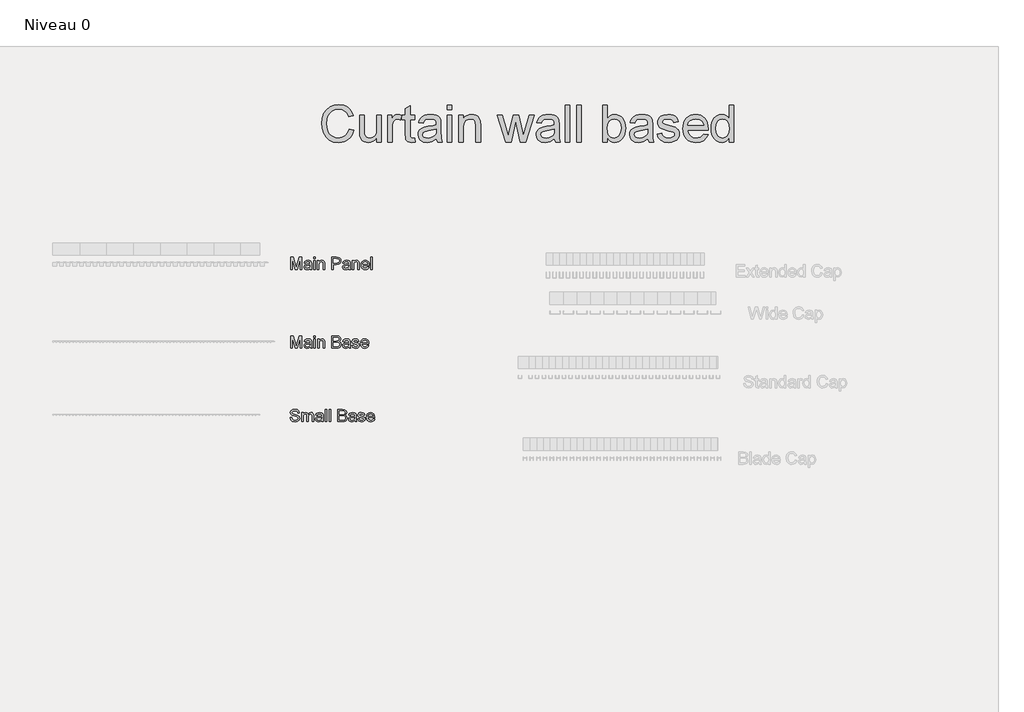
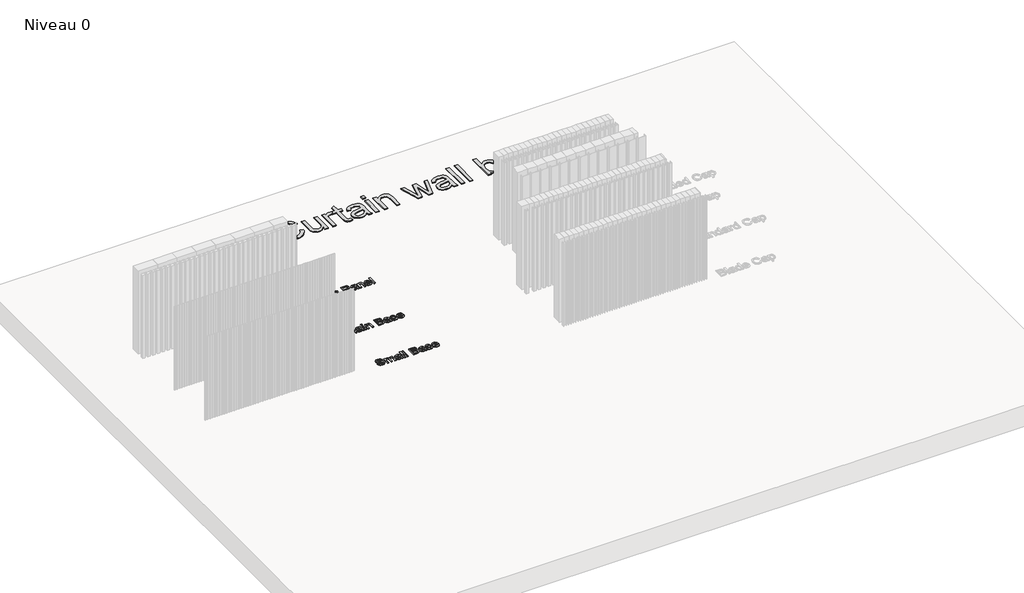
# One storey, part 3 of 25: 4 proxies.
"""IFC4 building model written with IfcOpenShell, lengths in millimetres."""

import ifcopenshell
import ifcopenshell.guid

model = None  # the IFC model being written
_history = None  # IfcOwnerHistory: only IFC2X3 demands one
_inside = {}  # id of a spatial element -> (the spatial element, [elements in it])
_under = {}  # id of a project, library or spatial element -> (it, [spatial elements below it])
_declared = {}  # id of a project -> (the project, [libraries it declares])
_typed = {}  # id of a type object -> (the type object, [elements of that type])
_made_of = {}  # id of a material, layer set ... -> (it, [elements and type objects made of it])


def new_model(schema):
    """Start an empty IFC model of exactly this schema.

    Asked for "IFC4X3", IfcOpenShell would pick the latest addendum, in which some entities
    have other attributes; the version numbers below select the first issue.
    IFC2X3 requires an IfcOwnerHistory on every rooted entity: one is made here for all.
    """
    global model, _history
    if schema == "IFC4X3":
        model = ifcopenshell.file(schema_version=(4, 3, 0, 0))
    else:
        model = ifcopenshell.file(schema=schema)
    _inside.clear()
    _under.clear()
    _declared.clear()
    _typed.clear()
    _made_of.clear()
    _history = None
    if model.schema == "IFC2X3":
        org = make("IfcOrganization", Name="unknown")
        user = make(
            "IfcPersonAndOrganization",
            ThePerson=make("IfcPerson", FamilyName="unknown"),
            TheOrganization=org,
        )
        app = make(
            "IfcApplication",
            ApplicationDeveloper=org,
            Version="unknown",
            ApplicationFullName="unknown",
            ApplicationIdentifier="unknown",
        )
        _history = make(
            "IfcOwnerHistory",
            OwningUser=user,
            OwningApplication=app,
            ChangeAction="ADDED",
            CreationDate=0,
        )
    return model


def make(cls, **values):
    """One entity of the class cls with the attributes given. An attribute that is None is left unset."""
    return model.create_entity(
        cls, **{name: value for name, value in values.items() if value is not None}
    )


def rooted(cls, **values):
    """An entity with a GlobalId (a new one), such as an element, a storey or a relation."""
    return make(cls, GlobalId=ifcopenshell.guid.new(), OwnerHistory=_history, **values)


def si_unit(unit_type, name, prefix=None):
    """IfcSIUnit, for example si_unit("LENGTHUNIT", "METRE", prefix="MILLI")."""
    return make("IfcSIUnit", UnitType=unit_type, Prefix=prefix, Name=name)


def assignment(units):
    """IfcUnitAssignment: the units of a project."""
    return None if units is None else make("IfcUnitAssignment", Units=units)


def point(xyz):
    """IfcCartesianPoint."""
    return None if xyz is None else make("IfcCartesianPoint", Coordinates=xyz)


def direction(xyz):
    """IfcDirection."""
    return None if xyz is None else make("IfcDirection", DirectionRatios=xyz)


def frame(location, z_axis=None, x_axis=None):
    """IfcAxis2Placement3D, a coordinate frame: its origin and axes. An axis left out is left unset."""
    return make(
        "IfcAxis2Placement3D",
        Location=point(location),
        Axis=direction(z_axis),
        RefDirection=direction(x_axis),
    )


def origin():
    """The frame at (0, 0, 0) with its axes left unset."""
    return frame((0.0, 0.0, 0.0))


def origin_with_axes():
    """The frame at (0, 0, 0) with the z axis (0, 0, 1) and the x axis (1, 0, 0) written out."""
    return frame((0.0, 0.0, 0.0), z_axis=(0.0, 0.0, 1.0), x_axis=(1.0, 0.0, 0.0))


def place(relative_to, where):
    """IfcLocalPlacement: puts the frame where relative to a parent placement (None: the world)."""
    return make(
        "IfcLocalPlacement", PlacementRelTo=relative_to, RelativePlacement=where
    )


def context(
    kind, dimensions, precision=None, world=None, true_north=None, identifier=None
):
    """IfcGeometricRepresentationContext, for example the 3D "Model" context."""
    return make(
        "IfcGeometricRepresentationContext",
        ContextIdentifier=identifier,
        ContextType=kind,
        CoordinateSpaceDimension=dimensions,
        Precision=precision,
        WorldCoordinateSystem=world,
        TrueNorth=true_north,
    )


def project(units=None, contexts=None):
    """IfcProject with its units and contexts."""
    return rooted(
        "IfcProject",
        Name="project",
        RepresentationContexts=contexts,
        UnitsInContext=assignment(units),
    )


def spatial(cls, under=None, at=None, **own):
    """A site, building, storey or space (cls), placed at a placement, below another one or the project."""
    s = rooted(cls, ObjectPlacement=at, **own)
    if under is not None:
        _under.setdefault(under.id(), (under, []))[1].append(s)
    return s


def polyline(points):
    """IfcPolyline through the points."""
    return make("IfcPolyline", Points=[point(p) for p in points])


def outline(outer, holes=None, kind="AREA"):
    """IfcArbitraryClosedProfileDef: a profile drawn as a closed curve; with holes, ...WithVoids."""
    if holes is None:
        return make("IfcArbitraryClosedProfileDef", ProfileType=kind, OuterCurve=outer)
    return make(
        "IfcArbitraryProfileDefWithVoids",
        ProfileType=kind,
        OuterCurve=outer,
        InnerCurves=holes,
    )


def extrude(swept, where, along, depth):
    """IfcExtrudedAreaSolid: the profile swept, set in the frame where, extruded along a direction by depth."""
    return make(
        "IfcExtrudedAreaSolid",
        SweptArea=swept,
        Position=where,
        ExtrudedDirection=direction(along),
        Depth=depth,
    )


def shape(context_of_items, identifier, shape_type, items):
    """IfcShapeRepresentation: the items that make up one representation, for example the "Body"."""
    return make(
        "IfcShapeRepresentation",
        ContextOfItems=context_of_items,
        RepresentationIdentifier=identifier,
        RepresentationType=shape_type,
        Items=items,
    )


def made_of(thing, what):
    """Note that an element or type object is made of a material, layer set ...; save() writes the relation."""
    if what is not None:
        _made_of.setdefault(what.id(), (what, []))[1].append(thing)
    return thing


def element(
    cls,
    number,
    at=None,
    inside=None,
    cuts=None,
    type_object=None,
    material=None,
    context=None,
    identifier="Body",
    shape_type=None,
    held_by="IfcProductDefinitionShape",
    body=None,
    shapes=None,
    **own,
):
    """One element of the class cls, such as IfcWall. Its Tag is "e" and its number.

    at: its placement. inside: the storey or other place that contains it. cuts: it is an
    opening in that element (IfcRelVoidsElement). A single representation is given by context,
    identifier, shape_type and body (its items); several are given by shapes. held_by: the class
    of the entity that holds the representations. save() writes the other relations.
    """
    e = rooted(cls, Tag="e%d" % number, ObjectPlacement=at, **own)
    if body is not None:
        shapes = [shape(context, identifier, shape_type, body)]
    if shapes is not None:
        e.Representation = make(held_by, Representations=shapes)
    if inside is not None:
        _inside.setdefault(inside.id(), (inside, []))[1].append(e)
    if cuts is not None:
        rooted(
            "IfcRelVoidsElement", RelatingBuildingElement=cuts, RelatedOpeningElement=e
        )
    if type_object is not None:
        _typed.setdefault(type_object.id(), (type_object, []))[1].append(e)
    return made_of(e, material)


def aggregate(whole, parts):
    """IfcRelAggregates: a whole, such as a stair, and the parts it consists of."""
    return rooted("IfcRelAggregates", RelatingObject=whole, RelatedObjects=parts)


def save(model, path):
    """Write the relations noted so far, then the file.

    IfcRelAggregates (storeys below a building ...), IfcRelContainedInSpatialStructure (elements
    in a storey), IfcRelDefinesByType, IfcRelAssociatesMaterial and IfcRelDeclares: one each for
    every whole, place, type object, material and project.
    """
    for whole, parts in _under.values():
        aggregate(whole, parts)
    for where, things in _inside.values():
        rooted(
            "IfcRelContainedInSpatialStructure",
            RelatedElements=things,
            RelatingStructure=where,
        )
    for kind, things in _typed.values():
        rooted("IfcRelDefinesByType", RelatedObjects=things, RelatingType=kind)
    for what, things in _made_of.values():
        rooted("IfcRelAssociatesMaterial", RelatedObjects=things, RelatingMaterial=what)
    for by, libraries in _declared.values():
        rooted("IfcRelDeclares", RelatingContext=by, RelatedDefinitions=libraries)
    model.write(path)


model = new_model("IFC4")

# Units and contexts
model_context = context("Model", 3, world=origin())
ifc_project = project(units=[si_unit("LENGTHUNIT", "METRE", prefix="MILLI")], contexts=[model_context])

# Site, building, storey
site = spatial("IfcSite", under=ifc_project)
building = spatial("IfcBuilding", under=site)
storey = spatial("IfcBuildingStorey", under=building, Name="Niveau 0", Elevation=0.0)

# Proxies
placement = place(None, origin())
element("IfcBuildingElementProxy", 1, Name="100mm Arial", ObjectType="100mm Arial", at=placement, inside=storey, context=model_context, shape_type="SweptSolid", body=[
    extrude(outline(polyline([(-10692.7358795, 4738.3670906), (-10692.7358795, 4838.8234007), (-10671.1289437, 4838.8234007), (-10650.5766029, 4768.0183794), (-10646.431799, 4753.2295232), (-10641.9436387, 4769.2446527), (-10621.7346544, 4838.8234007), (-10600.1277186, 4838.8234007), (-10600.1277186, 4738.3670906), (-10612.6847574, 4738.3670906), (-10612.6847574, 4826.266362), (-10637.9214622, 4738.3670906), (-10654.9421359, 4738.3670906), (-10680.1788407, 4826.266362), (-10680.1788407, 4738.3670906), (-10692.7358795, 4738.3670906)])), origin_with_axes(), (0.0, 0.0, 1.0), 10.0),
    extrude(outline(polyline([(-10532.6336352, 4747.7848697), (-10544.8105292, 4739.2745328), (-10558.2627475, 4736.7974607), (-10568.7565814, 4738.2873828), (-10576.4974318, 4742.7571491), (-10581.2707006, 4749.5445719), (-10582.8617903, 4757.9874637), (-10580.4582946, 4767.9202775), (-10574.142987, 4775.1307646), (-10565.3506073, 4779.251043), (-10554.4858257, 4781.1395039), (-10532.7072116, 4785.455986), (-10532.6336352, 4788.2518891), (-10536.091726, 4797.5225154), (-10549.9731399, 4801.1522844), (-10562.6773315, 4798.736526), (-10568.7351217, 4790.1648755), (-10581.2921604, 4791.7345053), (-10575.8597696, 4803.9972385), (-10564.9214116, 4811.1832002), (-10548.3544591, 4813.7093232), (-10533.1364073, 4811.4775058), (-10524.5402313, 4805.8734367), (-10520.6897331, 4797.3508371), (-10520.0765964, 4786.3634282), (-10520.0765964, 4770.7407062), (-10519.4389343, 4748.9253038), (-10516.9373367, 4738.3670906), (-10529.4943755, 4738.3670906), (-10532.6336352, 4747.7848697)]), holes=[polyline([(-10532.6336352, 4772.8989472), (-10552.8916704, 4769.048449), (-10563.6951383, 4767.0128353), (-10568.5879689, 4763.7018973), (-10570.3047515, 4758.8703804), (-10566.5646179, 4752.0768263), (-10555.5894717, 4749.3544995), (-10542.8852801, 4752.3588691), (-10534.6937744, 4759.6306699), (-10532.7072116, 4769.3427546), (-10532.6336352, 4772.8989472)])]), origin_with_axes(), (0.0, 0.0, 1.0), 10.0),
    extrude(outline(polyline([(-10502.8106681, 4738.3670906), (-10502.8106681, 4812.1396933), (-10490.2536294, 4812.1396933), (-10490.2536294, 4738.3670906), (-10502.8106681, 4738.3670906)])), origin_with_axes(), (0.0, 0.0, 1.0), 10.0),
    extrude(outline(polyline([(-10502.8106681, 4826.266362), (-10502.8106681, 4838.8234007), (-10490.2536294, 4838.8234007), (-10490.2536294, 4826.266362), (-10502.8106681, 4826.266362)])), origin_with_axes(), (0.0, 0.0, 1.0), 10.0),
    extrude(outline(polyline([(-10471.4180712, 4738.3670906), (-10471.4180712, 4812.1396933), (-10458.8610324, 4812.1396933), (-10458.8610324, 4801.8389975), (-10449.2593124, 4810.7417418), (-10436.1504506, 4813.7093232), (-10424.2923876, 4811.3180902), (-10416.1989837, 4805.0395708), (-10412.4343246, 4795.8057328), (-10411.7721371, 4783.6656269), (-10411.7721371, 4738.3670906), (-10424.3291758, 4738.3670906), (-10424.3291758, 4781.9733697), (-10425.7761783, 4793.083406), (-10430.8897381, 4798.9572552), (-10439.5104395, 4801.1522844), (-10453.134336, 4796.2226657), (-10457.4293583, 4789.0796236), (-10458.8610324, 4777.5097349), (-10458.8610324, 4738.3670906), (-10471.4180712, 4738.3670906)])), origin_with_axes(), (0.0, 0.0, 1.0), 10.0),
    extrude(outline(polyline([(-10353.6958327, 4738.3670906), (-10353.6958327, 4838.8234007), (-10316.4661748, 4838.8234007), (-10301.4565894, 4837.8669075), (-10289.2551699, 4833.1702807), (-10281.345707, 4823.4581961), (-10278.3536001, 4809.7607231), (-10280.3738854, 4797.9210542), (-10286.4347413, 4788.0556854), (-10297.7685724, 4781.3970213), (-10315.6077835, 4779.1774666), (-10341.138794, 4779.1774666), (-10341.138794, 4738.3670906), (-10353.6958327, 4738.3670906)]), holes=[polyline([(-10341.138794, 4791.7345053), (-10314.8720195, 4791.7345053), (-10296.3798179, 4796.345293), (-10292.2779337, 4801.8941798), (-10290.9106389, 4809.3192647), (-10294.1357377, 4819.7180624), (-10302.6092864, 4825.4079706), (-10315.1663251, 4826.266362), (-10341.138794, 4826.266362), (-10341.138794, 4791.7345053)])]), origin_with_axes(), (0.0, 0.0, 1.0), 10.0),
    extrude(outline(polyline([(-10215.5684063, 4747.7848697), (-10227.7453003, 4739.2745328), (-10241.1975186, 4736.7974607), (-10251.6913525, 4738.2873828), (-10259.4322029, 4742.7571491), (-10264.2054717, 4749.5445719), (-10265.7965614, 4757.9874637), (-10263.3930657, 4767.9202775), (-10257.0777581, 4775.1307646), (-10248.2853784, 4779.251043), (-10237.4205968, 4781.1395039), (-10215.6419827, 4785.455986), (-10215.5684063, 4788.2518891), (-10219.026497, 4797.5225154), (-10232.907911, 4801.1522844), (-10245.6121026, 4798.736526), (-10251.6698928, 4790.1648755), (-10264.2269315, 4791.7345053), (-10258.7945407, 4803.9972385), (-10247.8561827, 4811.1832002), (-10231.2892302, 4813.7093232), (-10216.0711784, 4811.4775058), (-10207.4750024, 4805.8734367), (-10203.6245042, 4797.3508371), (-10203.0113675, 4786.3634282), (-10203.0113675, 4770.7407062), (-10202.3737054, 4748.9253038), (-10199.8721078, 4738.3670906), (-10212.4291466, 4738.3670906), (-10215.5684063, 4747.7848697)]), holes=[polyline([(-10215.5684063, 4772.8989472), (-10235.8264415, 4769.048449), (-10246.6299094, 4767.0128353), (-10251.52274, 4763.7018973), (-10253.2395226, 4758.8703804), (-10249.499389, 4752.0768263), (-10238.5242428, 4749.3544995), (-10225.8200512, 4752.3588691), (-10217.6285455, 4759.6306699), (-10215.6419827, 4769.3427546), (-10215.5684063, 4772.8989472)])]), origin_with_axes(), (0.0, 0.0, 1.0), 10.0),
    extrude(outline(polyline([(-10185.7454392, 4738.3670906), (-10185.7454392, 4812.1396933), (-10173.1884004, 4812.1396933), (-10173.1884004, 4801.8389975), (-10163.5866804, 4810.7417418), (-10150.4778186, 4813.7093232), (-10138.6197556, 4811.3180902), (-10130.5263517, 4805.0395708), (-10126.7616927, 4795.8057328), (-10126.0995051, 4783.6656269), (-10126.0995051, 4738.3670906), (-10138.6565438, 4738.3670906), (-10138.6565438, 4781.9733697), (-10140.1035463, 4793.083406), (-10145.2171061, 4798.9572552), (-10153.8378075, 4801.1522844), (-10167.4617041, 4796.2226657), (-10171.7567264, 4789.0796236), (-10173.1884004, 4777.5097349), (-10173.1884004, 4738.3670906), (-10185.7454392, 4738.3670906)])), origin_with_axes(), (0.0, 0.0, 1.0), 10.0),
    extrude(outline(polyline([(-10057.1829446, 4760.3419084), (-10044.8711605, 4758.7722786), (-10049.3072043, 4749.4955209), (-10056.385867, 4742.5609453), (-10065.9477332, 4738.2383319), (-10077.8333873, 4736.7974607), (-10092.5670612, 4739.2837299), (-10103.903958, 4746.7425373), (-10111.1328392, 4758.6895051), (-10113.5424663, 4774.6402553), (-10111.1083138, 4791.1275001), (-10103.8058562, 4803.4576783), (-10092.6222435, 4811.146412), (-10078.5446258, 4813.7093232), (-10064.9054009, 4811.1525433), (-10054.0068967, 4803.4822037), (-10046.860789, 4791.176551), (-10044.4787531, 4774.7138317), (-10044.5523295, 4771.3293173), (-10100.9854275, 4771.3293173), (-10098.8118581, 4761.9299324), (-10093.7626777, 4755.0198822), (-10086.4755485, 4750.7708452), (-10077.5881326, 4749.3544995), (-10065.2763485, 4751.9787244), (-10057.1829446, 4760.3419084)]), holes=[polyline([(-10100.9854275, 4783.8863561), (-10057.0357918, 4783.8863561), (-10062.0635124, 4795.2661725), (-10069.3843641, 4799.6807564), (-10078.5936768, 4801.1522844), (-10094.0569833, 4796.4556576), (-10098.9222227, 4790.9650188), (-10100.9854275, 4783.8863561)])]), origin_with_axes(), (0.0, 0.0, 1.0), 10.0),
    extrude(outline(polyline([(-10031.9217143, 4738.3670906), (-10031.9217143, 4838.8234007), (-10019.3646755, 4838.8234007), (-10019.3646755, 4738.3670906), (-10031.9217143, 4738.3670906)])), origin_with_axes(), (0.0, 0.0, 1.0), 10.0),
])
element("IfcBuildingElementProxy", 2, Name="100mm Arial", ObjectType="100mm Arial", at=placement, inside=storey, context=model_context, shape_type="SweptSolid", body=[
    extrude(outline(polyline([(-10691.7441815, 4091.8560541), (-10691.7441815, 4192.3123643), (-10670.1372457, 4192.3123643), (-10649.5849049, 4121.5073429), (-10645.440101, 4106.7184867), (-10640.9519407, 4122.7336162), (-10620.7429564, 4192.3123643), (-10599.1360206, 4192.3123643), (-10599.1360206, 4091.8560541), (-10611.6930594, 4091.8560541), (-10611.6930594, 4179.7553255), (-10636.9297642, 4091.8560541), (-10653.9504379, 4091.8560541), (-10679.1871427, 4179.7553255), (-10679.1871427, 4091.8560541), (-10691.7441815, 4091.8560541)])), origin_with_axes(), (0.0, 0.0, 1.0), 10.0),
    extrude(outline(polyline([(-10531.6419372, 4101.2738332), (-10543.8188312, 4092.7634964), (-10557.2710495, 4090.2864243), (-10567.7648834, 4091.7763464), (-10575.5057338, 4096.2461126), (-10580.2790026, 4103.0335354), (-10581.8700923, 4111.4764272), (-10579.4665966, 4121.4092411), (-10573.151289, 4128.6197282), (-10564.3589093, 4132.7400065), (-10553.4941277, 4134.6284674), (-10531.7155136, 4138.9449495), (-10531.6419372, 4141.7408527), (-10535.100028, 4151.0114789), (-10548.9814419, 4154.641248), (-10561.6856335, 4152.2254895), (-10567.7434237, 4143.653839), (-10580.3004624, 4145.2234689), (-10574.8680716, 4157.4862021), (-10563.9297136, 4164.6721637), (-10547.3627611, 4167.1982867), (-10532.1447093, 4164.9664693), (-10523.5485333, 4159.3624002), (-10519.6980351, 4150.8398007), (-10519.0848984, 4139.8523918), (-10519.0848984, 4124.2296697), (-10518.4472363, 4102.4142674), (-10515.9456387, 4091.8560541), (-10528.5026775, 4091.8560541), (-10531.6419372, 4101.2738332)]), holes=[polyline([(-10531.6419372, 4126.3879107), (-10551.8999724, 4122.5374125), (-10562.7034403, 4120.5017988), (-10567.5962709, 4117.1908609), (-10569.3130535, 4112.359344), (-10565.5729199, 4105.5657898), (-10554.5977737, 4102.843463), (-10541.8935821, 4105.8478327), (-10533.7020764, 4113.1196334), (-10531.7155136, 4122.8317181), (-10531.6419372, 4126.3879107)])]), origin_with_axes(), (0.0, 0.0, 1.0), 10.0),
    extrude(outline(polyline([(-10501.8189701, 4091.8560541), (-10501.8189701, 4165.6286569), (-10489.2619314, 4165.6286569), (-10489.2619314, 4091.8560541), (-10501.8189701, 4091.8560541)])), origin_with_axes(), (0.0, 0.0, 1.0), 10.0),
    extrude(outline(polyline([(-10501.8189701, 4179.7553255), (-10501.8189701, 4192.3123643), (-10489.2619314, 4192.3123643), (-10489.2619314, 4179.7553255), (-10501.8189701, 4179.7553255)])), origin_with_axes(), (0.0, 0.0, 1.0), 10.0),
    extrude(outline(polyline([(-10470.4263732, 4091.8560541), (-10470.4263732, 4165.6286569), (-10457.8693344, 4165.6286569), (-10457.8693344, 4155.327961), (-10448.2676144, 4164.2307053), (-10435.1587526, 4167.1982867), (-10423.3006896, 4164.8070538), (-10415.2072857, 4158.5285344), (-10411.4426266, 4149.2946963), (-10410.7804391, 4137.1545905), (-10410.7804391, 4091.8560541), (-10423.3374778, 4091.8560541), (-10423.3374778, 4135.4623333), (-10424.7844803, 4146.5723695), (-10429.8980401, 4152.4462187), (-10438.5187415, 4154.641248), (-10452.142638, 4149.7116292), (-10456.4376603, 4142.5685872), (-10457.8693344, 4130.9986984), (-10457.8693344, 4091.8560541), (-10470.4263732, 4091.8560541)])), origin_with_axes(), (0.0, 0.0, 1.0), 10.0),
    extrude(outline(polyline([(-10352.7041347, 4091.8560541), (-10352.7041347, 4192.3123643), (-10314.3708308, 4192.3123643), (-10295.5965864, 4189.3570456), (-10284.5110756, 4180.2703603), (-10280.5011618, 4167.4190159), (-10283.8734134, 4155.6835803), (-10294.0637447, 4146.7930987), (-10281.6906469, 4137.4243706), (-10277.3619021, 4121.8016485), (-10280.3172208, 4108.3003793), (-10287.6380725, 4098.6863965), (-10298.5641678, 4093.5850995), (-10314.6651364, 4091.8560541), (-10352.7041347, 4091.8560541)]), holes=[polyline([(-10340.147096, 4151.5019883), (-10317.2157849, 4151.5019883), (-10303.8248803, 4152.5811088), (-10295.7682646, 4157.2286847), (-10293.0582006, 4165.4079277), (-10295.5843236, 4173.5994334), (-10302.8193362, 4178.443213), (-10318.9570931, 4179.7553255), (-10340.147096, 4179.7553255), (-10340.147096, 4151.5019883)]), polyline([(-10340.147096, 4104.4130929), (-10314.3953563, 4104.4130929), (-10305.0756791, 4104.9036022), (-10297.1907417, 4107.6381917), (-10291.9668173, 4113.2177353), (-10289.9189409, 4121.6790212), (-10292.3224366, 4131.4401568), (-10300.1092722, 4137.2649551), (-10315.6216296, 4138.9449495), (-10340.147096, 4138.9449495), (-10340.147096, 4104.4130929)])]), origin_with_axes(), (0.0, 0.0, 1.0), 10.0),
    extrude(outline(polyline([(-10214.5767083, 4101.2738332), (-10226.7536023, 4092.7634964), (-10240.2058206, 4090.2864243), (-10250.6996545, 4091.7763464), (-10258.4405048, 4096.2461126), (-10263.2137737, 4103.0335354), (-10264.8048634, 4111.4764272), (-10262.4013677, 4121.4092411), (-10256.0860601, 4128.6197282), (-10247.2936804, 4132.7400065), (-10236.4288988, 4134.6284674), (-10214.6502847, 4138.9449495), (-10214.5767083, 4141.7408527), (-10218.034799, 4151.0114789), (-10231.916213, 4154.641248), (-10244.6204046, 4152.2254895), (-10250.6781948, 4143.653839), (-10263.2352335, 4145.2234689), (-10257.8028427, 4157.4862021), (-10246.8644847, 4164.6721637), (-10230.2975322, 4167.1982867), (-10215.0794804, 4164.9664693), (-10206.4833044, 4159.3624002), (-10202.6328062, 4150.8398007), (-10202.0196695, 4139.8523918), (-10202.0196695, 4124.2296697), (-10201.3820074, 4102.4142674), (-10198.8804098, 4091.8560541), (-10211.4374486, 4091.8560541), (-10214.5767083, 4101.2738332)]), holes=[polyline([(-10214.5767083, 4126.3879107), (-10234.8347435, 4122.5374125), (-10245.6382114, 4120.5017988), (-10250.531042, 4117.1908609), (-10252.2478246, 4112.359344), (-10248.507691, 4105.5657898), (-10237.5325448, 4102.843463), (-10224.8283532, 4105.8478327), (-10216.6368475, 4113.1196334), (-10214.6502847, 4122.8317181), (-10214.5767083, 4126.3879107)])]), origin_with_axes(), (0.0, 0.0, 1.0), 10.0),
    extrude(outline(polyline([(-10189.4626308, 4113.830872), (-10176.905592, 4115.4005018), (-10171.0930565, 4106.0808246), (-10157.7757282, 4102.843463), (-10144.9734348, 4105.8110445), (-10140.8041055, 4112.7762769), (-10144.9979603, 4118.4171342), (-10157.922881, 4121.9978523), (-10176.8320156, 4128.1414816), (-10185.084835, 4135.3151805), (-10187.8930009, 4145.4441981), (-10185.636658, 4154.8006635), (-10179.480766, 4161.9498369), (-10171.4977267, 4165.6654451), (-10160.6942587, 4167.1982867), (-10145.4148932, 4164.7334774), (-10135.7028085, 4158.0625505), (-10131.3863264, 4146.7930987), (-10143.9433652, 4145.2234689), (-10148.6645175, 4152.1519131), (-10159.7132401, 4154.641248), (-10171.7307186, 4152.2622777), (-10175.3359621, 4146.7195223), (-10173.8399087, 4143.0652278), (-10169.1555446, 4140.2938501), (-10158.339814, 4137.6205743), (-10139.908926, 4131.7099369), (-10131.3495382, 4125.0144846), (-10128.2470668, 4114.1006521), (-10131.8890985, 4102.0831736), (-10142.3982608, 4093.3643703), (-10157.9474065, 4090.2864243), (-10170.6086785, 4091.770215), (-10179.8486479, 4096.2215871), (-10186.0168027, 4103.5914898), (-10189.4626308, 4113.830872)])), origin_with_axes(), (0.0, 0.0, 1.0), 10.0),
    extrude(outline(polyline([(-10062.469766, 4113.830872), (-10050.1579819, 4112.2612421), (-10054.5940256, 4102.9844845), (-10061.6726884, 4096.0499089), (-10071.2345546, 4091.7272954), (-10083.1202087, 4090.2864243), (-10097.8538826, 4092.7726934), (-10109.1907794, 4100.2315009), (-10116.4196606, 4112.1784687), (-10118.8292877, 4128.1292188), (-10116.3951351, 4144.6164636), (-10109.0926775, 4156.9466418), (-10097.9090649, 4164.6353755), (-10083.8314472, 4167.1982867), (-10070.1922222, 4164.6415069), (-10059.2937181, 4156.9711673), (-10052.1476104, 4144.6655145), (-10049.7655745, 4128.2027952), (-10049.8391509, 4124.8182809), (-10106.2722489, 4124.8182809), (-10104.0986795, 4115.4188959), (-10099.0494991, 4108.5088458), (-10091.7623699, 4104.2598087), (-10082.874954, 4102.843463), (-10070.5631699, 4105.4676879), (-10062.469766, 4113.830872)]), holes=[polyline([(-10106.2722489, 4137.3753197), (-10062.3226132, 4137.3753197), (-10067.3503338, 4148.755136), (-10074.6711855, 4153.16972), (-10083.8804981, 4154.641248), (-10099.3438047, 4149.9446212), (-10104.2090441, 4144.4539824), (-10106.2722489, 4137.3753197)])]), origin_with_axes(), (0.0, 0.0, 1.0), 10.0),
])
element("IfcBuildingElementProxy", 3, Name="100mm Arial", ObjectType="100mm Arial", at=placement, inside=storey, context=model_context, shape_type="SweptSolid", body=[
    extrude(outline(polyline([(-10696.453071, 3521.6398984), (-10683.8960323, 3521.6398984), (-10679.8493303, 3509.0705969), (-10669.9655674, 3501.1243458), (-10654.9069311, 3498.0954507), (-10641.7858066, 3500.3885818), (-10633.3122579, 3506.6916267), (-10630.5286175, 3515.1161244), (-10632.6132821, 3522.9520109), (-10641.1481444, 3528.6541818), (-10659.4318796, 3533.4489105), (-10679.1135663, 3539.6415907), (-10689.7944069, 3548.9857934), (-10693.3138113, 3561.4692558), (-10688.9605411, 3575.6817635), (-10676.2440868, 3585.7126793), (-10657.6292578, 3589.1339818), (-10637.7636301, 3585.5532637), (-10624.5198783, 3575.0318387), (-10619.5412086, 3559.3110147), (-10632.0982474, 3559.3110147), (-10634.4036412, 3566.8035447), (-10639.2106326, 3572.21141), (-10657.1387485, 3576.576943), (-10675.1159153, 3572.260461), (-10680.7567726, 3561.8371378), (-10676.7591216, 3553.1305972), (-10656.2558317, 3546.1163138), (-10634.0357592, 3539.813269), (-10621.8833906, 3529.6352005), (-10617.9715787, 3515.4349554), (-10622.4720018, 3500.4131073), (-10635.421448, 3489.4502238), (-10654.4164217, 3485.538412), (-10676.8449607, 3489.7567922), (-10691.032943, 3502.4609837), (-10696.453071, 3521.6398984)])), origin_with_axes(), (0.0, 0.0, 1.0), 10.0),
    extrude(outline(polyline([(-10600.7056504, 3487.1080418), (-10600.7056504, 3560.8806446), (-10588.1486117, 3560.8806446), (-10588.1486117, 3548.7405387), (-10579.5156475, 3558.6856153), (-10567.2283889, 3562.4502744), (-10554.6468246, 3558.6120389), (-10547.7306431, 3547.8576219), (-10537.9327193, 3558.8021113), (-10525.5596215, 3562.4502744), (-10516.1203827, 3560.9327612), (-10509.1398218, 3556.3802215), (-10504.8264054, 3548.670028), (-10503.3886, 3537.6795534), (-10503.3886, 3487.1080418), (-10515.9456387, 3487.1080418), (-10515.9456387, 3532.2839508), (-10517.1105984, 3542.7685877), (-10521.3289786, 3547.9311983), (-10528.5026775, 3549.8932357), (-10540.8512498, 3544.8655151), (-10544.5392668, 3538.3233469), (-10545.7686058, 3528.7522837), (-10545.7686058, 3487.1080418), (-10558.3256446, 3487.1080418), (-10558.3256446, 3533.6819024), (-10561.2319123, 3545.8465337), (-10570.760056, 3549.8932357), (-10580.0552078, 3547.1954344), (-10586.2356253, 3539.2982342), (-10588.1486117, 3524.3131743), (-10588.1486117, 3487.1080418), (-10600.7056504, 3487.1080418)])), origin_with_axes(), (0.0, 0.0, 1.0), 10.0),
    extrude(outline(polyline([(-10437.4641464, 3496.5258209), (-10449.6410405, 3488.0154841), (-10463.0932588, 3485.538412), (-10473.5870927, 3487.028334), (-10481.327943, 3491.4981003), (-10486.1012119, 3498.2855231), (-10487.6923015, 3506.7284149), (-10485.2888058, 3516.6612288), (-10478.9734982, 3523.8717159), (-10470.1811185, 3527.9919942), (-10459.3163369, 3529.8804551), (-10437.5377228, 3534.1969372), (-10437.4641464, 3536.9928404), (-10440.9222372, 3546.2634666), (-10454.8036511, 3549.8932357), (-10467.5078427, 3547.4774772), (-10473.5656329, 3538.9058267), (-10486.1226717, 3540.4754566), (-10480.6902809, 3552.7381897), (-10469.7519229, 3559.9241514), (-10453.1849704, 3562.4502744), (-10437.9669185, 3560.218457), (-10429.3707425, 3554.6143879), (-10425.5202443, 3546.0917884), (-10424.9071077, 3535.1043794), (-10424.9071077, 3519.4816574), (-10424.2694455, 3497.6662551), (-10421.767848, 3487.1080418), (-10434.3248867, 3487.1080418), (-10437.4641464, 3496.5258209)]), holes=[polyline([(-10437.4641464, 3521.6398984), (-10457.7221816, 3517.7894002), (-10468.5256496, 3515.7537865), (-10473.4184801, 3512.4428485), (-10475.1352627, 3507.6113317), (-10471.3951291, 3500.8177775), (-10460.4199829, 3498.0954507), (-10447.7157914, 3501.0998204), (-10439.5242856, 3508.3716211), (-10437.5377228, 3518.0837058), (-10437.4641464, 3521.6398984)])]), origin_with_axes(), (0.0, 0.0, 1.0), 10.0),
    extrude(outline(polyline([(-10407.6411794, 3487.1080418), (-10407.6411794, 3587.564352), (-10395.0841406, 3587.564352), (-10395.0841406, 3487.1080418), (-10407.6411794, 3487.1080418)])), origin_with_axes(), (0.0, 0.0, 1.0), 10.0),
    extrude(outline(polyline([(-10376.2485824, 3487.1080418), (-10376.2485824, 3587.564352), (-10363.6915437, 3587.564352), (-10363.6915437, 3487.1080418), (-10376.2485824, 3487.1080418)])), origin_with_axes(), (0.0, 0.0, 1.0), 10.0),
    extrude(outline(polyline([(-10304.0456095, 3487.1080418), (-10304.0456095, 3587.564352), (-10265.7123056, 3587.564352), (-10246.9380611, 3584.6090333), (-10235.8525503, 3575.522348), (-10231.8426366, 3562.6710036), (-10235.2148882, 3550.935568), (-10245.4052195, 3542.0450864), (-10233.0321217, 3532.6763583), (-10228.7033769, 3517.0536362), (-10231.6586956, 3503.552367), (-10238.9795473, 3493.9383842), (-10249.9056426, 3488.8370872), (-10266.0066112, 3487.1080418), (-10304.0456095, 3487.1080418)]), holes=[polyline([(-10291.4885707, 3546.753976), (-10268.5572597, 3546.753976), (-10255.1663551, 3547.8330965), (-10247.1097394, 3552.4806724), (-10244.3996754, 3560.6599154), (-10246.9257984, 3568.8514211), (-10254.160811, 3573.6952007), (-10270.2985678, 3575.0073132), (-10291.4885707, 3575.0073132), (-10291.4885707, 3546.753976)]), polyline([(-10291.4885707, 3499.6650806), (-10265.7368311, 3499.6650806), (-10256.4171539, 3500.1555899), (-10248.5322164, 3502.8901794), (-10243.3082921, 3508.469723), (-10241.2604157, 3516.9310089), (-10243.6639114, 3526.6921445), (-10251.4507469, 3532.5169427), (-10266.9631044, 3534.1969372), (-10291.4885707, 3534.1969372), (-10291.4885707, 3499.6650806)])]), origin_with_axes(), (0.0, 0.0, 1.0), 10.0),
    extrude(outline(polyline([(-10165.9181831, 3496.5258209), (-10178.0950771, 3488.0154841), (-10191.5472954, 3485.538412), (-10202.0411293, 3487.028334), (-10209.7819796, 3491.4981003), (-10214.5552485, 3498.2855231), (-10216.1463381, 3506.7284149), (-10213.7428424, 3516.6612288), (-10207.4275349, 3523.8717159), (-10198.6351552, 3527.9919942), (-10187.7703736, 3529.8804551), (-10165.9917595, 3534.1969372), (-10165.9181831, 3536.9928404), (-10169.3762738, 3546.2634666), (-10183.2576878, 3549.8932357), (-10195.9618793, 3547.4774772), (-10202.0196695, 3538.9058267), (-10214.5767083, 3540.4754566), (-10209.1443175, 3552.7381897), (-10198.2059595, 3559.9241514), (-10181.639007, 3562.4502744), (-10166.4209551, 3560.218457), (-10157.8247792, 3554.6143879), (-10153.974281, 3546.0917884), (-10153.3611443, 3535.1043794), (-10153.3611443, 3519.4816574), (-10152.7234822, 3497.6662551), (-10150.2218846, 3487.1080418), (-10162.7789234, 3487.1080418), (-10165.9181831, 3496.5258209)]), holes=[polyline([(-10165.9181831, 3521.6398984), (-10186.1762183, 3517.7894002), (-10196.9796862, 3515.7537865), (-10201.8725167, 3512.4428485), (-10203.5892994, 3507.6113317), (-10199.8491658, 3500.8177775), (-10188.8740196, 3498.0954507), (-10176.169828, 3501.0998204), (-10167.9783222, 3508.3716211), (-10165.9917595, 3518.0837058), (-10165.9181831, 3521.6398984)])]), origin_with_axes(), (0.0, 0.0, 1.0), 10.0),
    extrude(outline(polyline([(-10140.8041055, 3509.0828597), (-10128.2470668, 3510.6524895), (-10122.4345312, 3501.3328123), (-10109.117203, 3498.0954507), (-10096.3149096, 3501.0630322), (-10092.1455803, 3508.0282646), (-10096.339435, 3513.6691219), (-10109.2643558, 3517.2498399), (-10128.1734904, 3523.3934693), (-10136.4263098, 3530.5671682), (-10139.2344757, 3540.6961858), (-10136.9781328, 3550.0526512), (-10130.8222407, 3557.2018246), (-10122.8392014, 3560.9174328), (-10112.0357335, 3562.4502744), (-10096.756368, 3559.9854651), (-10087.0442833, 3553.3145382), (-10082.7278012, 3542.0450864), (-10095.28484, 3540.4754566), (-10100.0059923, 3547.4039008), (-10111.0547148, 3549.8932357), (-10123.0721934, 3547.5142654), (-10126.6774369, 3541.97151), (-10125.1813835, 3538.3172155), (-10120.4970194, 3535.5458378), (-10109.6812887, 3532.872562), (-10091.2504008, 3526.9619246), (-10082.691013, 3520.2664723), (-10079.5885415, 3509.3526398), (-10083.2305733, 3497.3351613), (-10093.7397356, 3488.616358), (-10109.2888813, 3485.538412), (-10121.9501533, 3487.0222027), (-10131.1901227, 3491.4735748), (-10137.3582775, 3498.8434775), (-10140.8041055, 3509.0828597)])), origin_with_axes(), (0.0, 0.0, 1.0), 10.0),
    extrude(outline(polyline([(-10013.8112408, 3509.0828597), (-10001.4994567, 3507.5132298), (-10005.9355004, 3498.2364722), (-10013.0141631, 3491.3018966), (-10022.5760293, 3486.9792831), (-10034.4616835, 3485.538412), (-10049.1953574, 3488.0246811), (-10060.5322542, 3495.4834886), (-10067.7611354, 3507.4304564), (-10070.1707625, 3523.3812065), (-10067.7366099, 3539.8684513), (-10060.4341523, 3552.1986295), (-10049.2505397, 3559.8873632), (-10035.172922, 3562.4502744), (-10021.533697, 3559.8934946), (-10010.6351929, 3552.223155), (-10003.4890851, 3539.9175022), (-10001.1070492, 3523.4547829), (-10001.1806256, 3520.0702686), (-10057.6137237, 3520.0702686), (-10055.4401542, 3510.6708836), (-10050.3909738, 3503.7608335), (-10043.1038447, 3499.5117964), (-10034.2164288, 3498.0954507), (-10021.9046447, 3500.7196756), (-10013.8112408, 3509.0828597)]), holes=[polyline([(-10057.6137237, 3532.6273073), (-10013.664088, 3532.6273073), (-10018.6918086, 3544.0071237), (-10026.0126603, 3548.4217077), (-10035.2219729, 3549.8932357), (-10050.6852794, 3545.1966088), (-10055.5505188, 3539.7059701), (-10057.6137237, 3532.6273073)])]), origin_with_axes(), (0.0, 0.0, 1.0), 10.0),
])
element("IfcBuildingElementProxy", 4, Name="300mm Arial", ObjectType="300mm Arial", at=placement, inside=storey, context=model_context, shape_type="SweptSolid", body=[
    extrude(outline(polyline([(-10210.3010004, 5893.3504482), (-10172.6298841, 5883.6383636), (-10180.084093, 5860.2111783), (-10190.0123084, 5839.7408445), (-10202.4145301, 5822.2273623), (-10217.2907583, 5807.6707316), (-10234.3053006, 5796.2273022), (-10253.1224646, 5788.0534242), (-10273.7422505, 5783.1490973), (-10296.1646581, 5781.5143217), (-10339.8598421, 5786.4623345), (-10374.5603113, 5801.306373), (-10401.1581795, 5825.5314024), (-10420.5455607, 5858.6223879), (-10432.3821638, 5897.5259089), (-10436.3276982, 5939.1885448), (-10431.8671291, 5983.1320492), (-10418.4854215, 6021.079077), (-10396.8815513, 6051.8248147), (-10367.7544943, 6074.1644489), (-10333.210375, 6087.7668856), (-10295.3553177, 6092.3010312), (-10254.0513667, 6086.4333134), (-10236.0826305, 6079.0986661), (-10219.9027205, 6068.8301599), (-10205.7783511, 6055.8991078), (-10193.9762369, 6040.5768227), (-10177.3387736, 6002.7585536), (-10215.0098899, 5993.7822329), (-10228.0697008, 6021.2538209), (-10245.9119775, 6040.0985761), (-10268.7574494, 6050.9970802), (-10296.8268457, 6054.6299149), (-10329.1820672, 6050.6016071), (-10355.7615413, 6038.5166835), (-10375.9306717, 6019.6443372), (-10389.0548619, 5995.2537609), (-10396.2561519, 5967.6810054), (-10398.6565819, 5939.2621212), (-10395.8146935, 5904.4604845), (-10387.2890283, 5874.3677373), (-10372.7576895, 5850.1335109), (-10351.8987804, 5832.9074364), (-10326.8920017, 5822.6159376), (-10299.9170544, 5819.185438), (-10268.4723409, 5823.8575393), (-10242.2699458, 5837.8738434), (-10222.4870915, 5861.0871973), (-10210.3010004, 5893.3504482)])), origin_with_axes(), (0.0, 0.0, 1.0), 10.0),
    extrude(outline(polyline([(-9984.2743026, 5786.2232112), (-9984.2743026, 5824.2622095), (-9997.9043305, 5805.5600086), (-10013.7784386, 5792.2012937), (-10031.8966269, 5784.1860647), (-10052.2588953, 5781.5143217), (-10070.6070098, 5783.3905199), (-10087.6859314, 5789.0191144), (-10102.0149351, 5797.4804003), (-10112.1132959, 5807.8546726), (-10123.3336968, 5835.592975), (-10125.5409887, 5870.6153409), (-10125.5409887, 6007.5410195), (-10087.8698724, 6007.5410195), (-10087.8698724, 5888.3472531), (-10085.589004, 5849.9403728), (-10080.0983653, 5837.1288823), (-10070.6897832, 5827.3892065), (-10057.9886574, 5821.2363801), (-10042.620387, 5819.185438), (-10026.3691999, 5821.2823654), (-10011.1664764, 5827.5731475), (-9998.6308974, 5837.4783702), (-9990.3811437, 5850.4186194), (-9985.8010129, 5868.1413345), (-9984.2743026, 5892.393955), (-9984.2743026, 6007.5410195), (-9946.6031863, 6007.5410195), (-9946.6031863, 5786.2232112), (-9984.2743026, 5786.2232112)])), origin_with_axes(), (0.0, 0.0, 1.0), 10.0),
    extrude(outline(polyline([(-9894.8054013, 5786.2232112), (-9894.8054013, 6007.5410195), (-9861.8431746, 6007.5410195), (-9861.8431746, 5974.799522), (-9849.6662805, 5993.7822329), (-9838.4458797, 6004.9658456), (-9827.1886906, 6010.4288932), (-9814.901432, 6012.2499091), (-9796.1394502, 6009.3436413), (-9777.0831629, 6000.624838), (-9789.6647271, 5966.8532709), (-9802.908479, 5972.6474123), (-9816.1522308, 5974.5787928), (-9827.4002228, 5972.7209887), (-9837.4525983, 5967.1475765), (-9845.5735933, 5958.2816204), (-9851.0274439, 5946.5461847), (-9855.6075748, 5925.5033346), (-9857.134285, 5902.5474981), (-9857.134285, 5786.2232112), (-9894.8054013, 5786.2232112)])), origin_with_axes(), (0.0, 0.0, 1.0), 10.0),
    extrude(outline(polyline([(-9673.487593, 5817.6403336), (-9668.7787035, 5785.1195653), (-9696.9584643, 5781.5143217), (-9715.0398644, 5783.0778202), (-9728.5227395, 5787.7683156), (-9738.0508832, 5794.9971968), (-9744.2680889, 5804.1758526), (-9747.6893915, 5819.9395961), (-9748.8298257, 5846.9237404), (-9748.8298257, 5969.8699032), (-9777.0831629, 5969.8699032), (-9777.0831629, 6007.5410195), (-9748.8298257, 6007.5410195), (-9748.8298257, 6061.3253672), (-9711.1587094, 6083.4718633), (-9711.1587094, 6007.5410195), (-9673.487593, 6007.5410195), (-9673.487593, 5969.8699032), (-9711.1587094, 5969.8699032), (-9711.1587094, 5848.0273864), (-9709.1721466, 5828.6032171), (-9702.7342117, 5821.7238238), (-9689.89513, 5819.185438), (-9673.487593, 5817.6403336)])), origin_with_axes(), (0.0, 0.0, 1.0), 10.0),
    extrude(outline(polyline([(-9494.5497906, 5814.4765485), (-9512.5484172, 5799.0438988), (-9531.0804727, 5788.945538), (-9550.5690214, 5783.3721258), (-9571.4371276, 5781.5143217), (-9602.9186293, 5785.9840879), (-9626.1411803, 5799.3933867), (-9640.4609869, 5819.7556551), (-9645.2342558, 5845.0843305), (-9643.431634, 5860.7009212), (-9638.0237687, 5874.8827721), (-9629.6820445, 5887.0228779), (-9619.077846, 5896.5142334), (-9592.7007069, 5908.8750684), (-9560.1063621, 5914.5404512), (-9521.5891172, 5920.5001395), (-9494.7705198, 5927.4898974), (-9494.5497906, 5935.8776069), (-9497.1433587, 5952.6898141), (-9504.9240629, 5963.6894857), (-9522.3248812, 5971.856466), (-9546.5683047, 5974.5787928), (-9569.0091064, 5972.7669739), (-9584.6808794, 5967.3315175), (-9595.3678514, 5957.2791419), (-9602.85425, 5941.616566), (-9640.5253663, 5946.3254555), (-9633.9862638, 5966.9268473), (-9624.2281939, 5983.1136551), (-9610.3406486, 5995.4928842), (-9591.4131199, 6004.67154), (-9568.2641454, 6010.3553168), (-9541.7122624, 6012.2499091), (-9516.2456313, 6010.576046), (-9496.0581068, 6005.5544568), (-9480.8369892, 5998.0036788), (-9470.2695789, 5988.7422496), (-9463.2614269, 5977.2919225), (-9458.7180843, 5963.1744509), (-9456.8786743, 5930.2122242), (-9456.8786743, 5883.344058), (-9454.9656879, 5817.897851), (-9447.4608952, 5786.2232112), (-9485.1320115, 5786.2232112), (-9494.5497906, 5814.4765485)]), holes=[polyline([(-9494.5497906, 5889.8187811), (-9555.3238962, 5878.2672864), (-9587.7343, 5872.1604453), (-9602.4127916, 5862.2276314), (-9607.5631395, 5847.7330808), (-9604.7580393, 5836.5310741), (-9596.3427387, 5827.3524183), (-9582.5011786, 5821.2271831), (-9563.4173001, 5819.185438), (-9543.1837904, 5821.4387152), (-9525.3047254, 5828.1985469), (-9510.8101748, 5838.1589519), (-9500.7302081, 5850.0139492), (-9496.2604419, 5862.2276314), (-9494.7705198, 5879.1502032), (-9494.5497906, 5889.8187811)])]), origin_with_axes(), (0.0, 0.0, 1.0), 10.0),
    extrude(outline(polyline([(-9405.0808894, 6049.9210254), (-9405.0808894, 6087.5921417), (-9367.4097731, 6087.5921417), (-9367.4097731, 6049.9210254), (-9405.0808894, 6049.9210254)])), origin_with_axes(), (0.0, 0.0, 1.0), 10.0),
    extrude(outline(polyline([(-9405.0808894, 5786.2232112), (-9405.0808894, 6007.5410195), (-9367.4097731, 6007.5410195), (-9367.4097731, 5786.2232112), (-9405.0808894, 5786.2232112)])), origin_with_axes(), (0.0, 0.0, 1.0), 10.0),
    extrude(outline(polyline([(-9310.9030986, 5786.2232112), (-9310.9030986, 6007.5410195), (-9273.2319823, 6007.5410195), (-9273.2319823, 5976.6389319), (-9260.1445803, 5992.2187344), (-9244.4268221, 6003.3471648), (-9226.0787076, 6010.024223), (-9205.1002368, 6012.2499091), (-9186.5313931, 6010.4564843), (-9169.5260479, 6005.0762102), (-9155.3441969, 5996.7804712), (-9145.2458362, 5986.240652), (-9133.9518589, 5958.5391378), (-9131.9652961, 5922.1188203), (-9131.9652961, 5786.2232112), (-9169.6364125, 5786.2232112), (-9169.6364125, 5917.0420487), (-9173.97742, 5950.3721575), (-9179.9830936, 5960.2957743), (-9189.3180992, 5967.9937051), (-9201.2834611, 5972.9325208), (-9215.1802035, 5974.5787928), (-9237.2439261, 5970.8815787), (-9256.0518931, 5959.7899366), (-9263.5681821, 5950.735441), (-9268.93696, 5938.3608103), (-9273.2319823, 5903.6511441), (-9273.2319823, 5786.2232112), (-9310.9030986, 5786.2232112)])), origin_with_axes(), (0.0, 0.0, 1.0), 10.0),
    extrude(outline(polyline([(-8925.7306497, 5786.2232112), (-8993.0530548, 6007.5410195), (-8953.9104105, 6007.5410195), (-8915.7242594, 5878.4144392), (-8904.3199175, 5832.282037), (-8894.9757149, 5876.7221821), (-8864.5886621, 6007.5410195), (-8819.7070586, 6007.5410195), (-8789.4671586, 5877.090064), (-8781.1530255, 5836.8437738), (-8769.2336489, 5879.297356), (-8730.9739214, 6007.5410195), (-8691.6841243, 6007.5410195), (-8759.5215642, 5786.2232112), (-8805.0653552, 5786.2232112), (-8833.9808801, 5916.0119791), (-8842.3685895, 5956.4789986), (-8879.6718239, 5786.2232112), (-8925.7306497, 5786.2232112)])), origin_with_axes(), (0.0, 0.0, 1.0), 10.0),
    extrude(outline(polyline([(-8524.5185457, 5814.4765485), (-8542.5171723, 5799.0438988), (-8561.0492278, 5788.945538), (-8580.5377765, 5783.3721258), (-8601.4058827, 5781.5143217), (-8632.8873844, 5785.9840879), (-8656.1099354, 5799.3933867), (-8670.4297421, 5819.7556551), (-8675.2030109, 5845.0843305), (-8673.4003892, 5860.7009212), (-8667.9925238, 5874.8827721), (-8659.6507996, 5887.0228779), (-8649.0466011, 5896.5142334), (-8622.669462, 5908.8750684), (-8590.0751173, 5914.5404512), (-8551.5578724, 5920.5001395), (-8524.7392749, 5927.4898974), (-8524.5185457, 5935.8776069), (-8527.1121138, 5952.6898141), (-8534.892818, 5963.6894857), (-8552.2936363, 5971.856466), (-8576.5370598, 5974.5787928), (-8598.9778615, 5972.7669739), (-8614.6496345, 5967.3315175), (-8625.3366065, 5957.2791419), (-8632.8230051, 5941.616566), (-8670.4941214, 5946.3254555), (-8663.9550189, 5966.9268473), (-8654.196949, 5983.1136551), (-8640.3094037, 5995.4928842), (-8621.381875, 6004.67154), (-8598.2329005, 6010.3553168), (-8571.6810175, 6012.2499091), (-8546.2143864, 6010.576046), (-8526.0268619, 6005.5544568), (-8510.8057443, 5998.0036788), (-8500.238334, 5988.7422496), (-8493.230182, 5977.2919225), (-8488.6868394, 5963.1744509), (-8486.8474294, 5930.2122242), (-8486.8474294, 5883.344058), (-8484.934443, 5817.897851), (-8477.4296503, 5786.2232112), (-8515.1007666, 5786.2232112), (-8524.5185457, 5814.4765485)]), holes=[polyline([(-8524.5185457, 5889.8187811), (-8585.2926513, 5878.2672864), (-8617.7030551, 5872.1604453), (-8632.3815467, 5862.2276314), (-8637.5318946, 5847.7330808), (-8634.7267944, 5836.5310741), (-8626.3114938, 5827.3524183), (-8612.4699337, 5821.2271831), (-8593.3860552, 5819.185438), (-8573.1525455, 5821.4387152), (-8555.2734805, 5828.1985469), (-8540.7789299, 5838.1589519), (-8530.6989632, 5850.0139492), (-8526.229197, 5862.2276314), (-8524.7392749, 5879.1502032), (-8524.5185457, 5889.8187811)])]), origin_with_axes(), (0.0, 0.0, 1.0), 10.0),
    extrude(outline(polyline([(-8435.0496445, 5786.2232112), (-8435.0496445, 6087.5921417), (-8397.3785282, 6087.5921417), (-8397.3785282, 5786.2232112), (-8435.0496445, 5786.2232112)])), origin_with_axes(), (0.0, 0.0, 1.0), 10.0),
    extrude(outline(polyline([(-8340.8718537, 5786.2232112), (-8340.8718537, 6087.5921417), (-8303.2007374, 6087.5921417), (-8303.2007374, 5786.2232112), (-8340.8718537, 5786.2232112)])), origin_with_axes(), (0.0, 0.0, 1.0), 10.0),
    extrude(outline(polyline([(-8091.3007082, 5786.2232112), (-8128.9718245, 5786.2232112), (-8128.9718245, 6087.5921417), (-8091.3007082, 6087.5921417), (-8091.3007082, 5975.8295916), (-8078.912282, 5991.7634805), (-8064.9235691, 6003.1448297), (-8049.3345696, 6009.9736392), (-8032.1452834, 6012.2499091), (-8012.7395081, 6010.198967), (-7994.4005907, 6004.0461406), (-7978.1769947, 5994.1777061), (-7965.1171838, 5980.9799395), (-7954.8808673, 5964.5815996), (-7947.1277543, 5945.111445), (-7942.2441208, 5923.3788161), (-7940.616243, 5900.1930533), (-7942.3016024, 5873.4388352), (-7947.3576805, 5849.9035846), (-7955.7844775, 5829.5873014), (-7967.5819932, 5812.4899857), (-7981.7431508, 5798.9381327), (-7997.2608732, 5789.2582377), (-8014.1351604, 5783.4503007), (-8032.3660126, 5781.5143217), (-8050.1209174, 5784.0113207), (-8065.8616682, 5791.5023179), (-8079.5882652, 5803.9873131), (-8091.3007082, 5821.4663064), (-8091.3007082, 5786.2232112)]), holes=[polyline([(-8091.3007082, 5898.4272198), (-8088.7255342, 5867.0100974), (-8081.0000123, 5845.7465181), (-8071.8719403, 5834.1260455), (-8061.2631433, 5825.825708), (-8049.1736212, 5820.8455055), (-8035.6033741, 5819.185438), (-8013.8615482, 5824.0782685), (-7995.2835075, 5838.7567602), (-7982.5363963, 5863.1289423), (-7978.2873593, 5897.1028446), (-7982.3616524, 5931.5733875), (-7994.5845317, 5955.6696582), (-8012.5831583, 5969.8515091), (-8033.9846933, 5974.5787928), (-8055.7265193, 5969.6859622), (-8074.30456, 5955.0074706), (-8087.0516711, 5931.0767468), (-8091.3007082, 5898.4272198)])]), origin_with_axes(), (0.0, 0.0, 1.0), 10.0),
    extrude(outline(polyline([(-7756.969551, 5814.4765485), (-7774.9681776, 5799.0438988), (-7793.5002331, 5788.945538), (-7812.9887818, 5783.3721258), (-7833.856888, 5781.5143217), (-7865.3383897, 5785.9840879), (-7888.5609407, 5799.3933867), (-7902.8807473, 5819.7556551), (-7907.6540162, 5845.0843305), (-7905.8513944, 5860.7009212), (-7900.4435291, 5874.8827721), (-7892.1018049, 5887.0228779), (-7881.4976063, 5896.5142334), (-7855.1204673, 5908.8750684), (-7822.5261225, 5914.5404512), (-7784.0088776, 5920.5001395), (-7757.1902802, 5927.4898974), (-7756.969551, 5935.8776069), (-7759.563119, 5952.6898141), (-7767.3438232, 5963.6894857), (-7784.7446416, 5971.856466), (-7808.9880651, 5974.5787928), (-7831.4288668, 5972.7669739), (-7847.1006398, 5967.3315175), (-7857.7876118, 5957.2791419), (-7865.2740104, 5941.616566), (-7902.9451267, 5946.3254555), (-7896.4060242, 5966.9268473), (-7886.6479543, 5983.1136551), (-7872.760409, 5995.4928842), (-7853.8328803, 6004.67154), (-7830.6839058, 6010.3553168), (-7804.1320228, 6012.2499091), (-7778.6653916, 6010.576046), (-7758.4778672, 6005.5544568), (-7743.2567496, 5998.0036788), (-7732.6893393, 5988.7422496), (-7725.6811873, 5977.2919225), (-7721.1378446, 5963.1744509), (-7719.2984347, 5930.2122242), (-7719.2984347, 5883.344058), (-7717.3854483, 5817.897851), (-7709.8806556, 5786.2232112), (-7747.5517719, 5786.2232112), (-7756.969551, 5814.4765485)]), holes=[polyline([(-7756.969551, 5889.8187811), (-7817.7436566, 5878.2672864), (-7850.1540604, 5872.1604453), (-7864.832552, 5862.2276314), (-7869.9828999, 5847.7330808), (-7867.1777997, 5836.5310741), (-7858.762499, 5827.3524183), (-7844.920939, 5821.2271831), (-7825.8370605, 5819.185438), (-7805.6035507, 5821.4387152), (-7787.7244858, 5828.1985469), (-7773.2299352, 5838.1589519), (-7763.1499685, 5850.0139492), (-7758.6802023, 5862.2276314), (-7757.1902802, 5879.1502032), (-7756.969551, 5889.8187811)])]), origin_with_axes(), (0.0, 0.0, 1.0), 10.0),
    extrude(outline(polyline([(-7681.6273184, 5852.1476648), (-7643.9562021, 5856.8565543), (-7638.0149078, 5840.7433229), (-7626.5185955, 5828.8975227), (-7609.3936886, 5821.6134592), (-7586.5666108, 5819.185438), (-7564.0154445, 5821.4111241), (-7548.1597305, 5828.0881823), (-7538.7787396, 5837.7634788), (-7535.6517427, 5848.9838796), (-7538.7971337, 5858.5855997), (-7548.2333069, 5865.9064514), (-7587.0080692, 5876.6486057), (-7643.7354729, 5895.0794936), (-7658.0920677, 5904.3409228), (-7668.4939311, 5916.6005903), (-7674.8123044, 5931.0767468), (-7676.9184288, 5946.9876431), (-7675.2261716, 5961.5833613), (-7670.1494001, 5975.0570394), (-7662.1479667, 5986.8752485), (-7651.681724, 5996.5045597), (-7627.7326061, 6007.6513841), (-7595.3222023, 6012.2499091), (-7570.8028673, 6010.4013021), (-7549.4841057, 6004.855481), (-7532.3408047, 5996.1550718), (-7520.3478517, 5984.8427004), (-7512.4016006, 5970.0814354), (-7507.3984054, 5951.0343451), (-7545.0695218, 5946.3254555), (-7549.8243965, 5958.1804528), (-7559.2329786, 5967.1107883), (-7573.3872383, 5972.7117916), (-7592.3791463, 5974.5787928), (-7614.0106077, 5972.7945651), (-7628.4315819, 5967.4418821), (-7636.5433799, 5959.7163602), (-7639.2473125, 5950.8136159), (-7634.7591522, 5939.8507324), (-7620.70606, 5931.5365993), (-7588.258868, 5923.5167718), (-7532.9662041, 5905.7848597), (-7518.3612889, 5897.3051797), (-7507.2880408, 5885.6985027), (-7500.30748, 5870.9280406), (-7497.9806264, 5852.9570052), (-7500.7121502, 5834.3789644), (-7508.9067216, 5816.9045696), (-7522.251641, 5801.9041813), (-7540.4342086, 5790.7481598), (-7562.3967637, 5783.8227812), (-7587.0816456, 5781.5143217), (-7625.0654616, 5785.9656938), (-7652.7853699, 5799.3198103), (-7671.2898343, 5821.4295182), (-7681.6273184, 5852.1476648)])), origin_with_axes(), (0.0, 0.0, 1.0), 10.0),
    extrude(outline(polyline([(-7300.6487242, 5852.1476648), (-7263.7133718, 5847.4387752), (-7277.021503, 5819.6085023), (-7298.2574912, 5798.8047755), (-7326.9430898, 5785.8369351), (-7362.6000521, 5781.5143217), (-7385.9743544, 5783.3790236), (-7406.8010739, 5788.9731292), (-7425.0802105, 5798.2966385), (-7440.8117643, 5811.3495515), (-7453.4623064, 5827.7685848), (-7462.4984079, 5847.1904549), (-7467.9200688, 5869.6151618), (-7469.7272891, 5895.0427054), (-7467.9016747, 5921.3324725), (-7462.4248315, 5944.5044397), (-7453.2967595, 5964.5586069), (-7440.5174587, 5981.4949743), (-7424.8272916, 5994.9502583), (-7406.9666208, 6004.5611754), (-7386.9354461, 6010.3277257), (-7364.7337677, 6012.2499091), (-7343.2471599, 6010.3323242), (-7323.8160928, 6004.5795695), (-7306.4405663, 5994.991645), (-7291.1205805, 5981.5685507), (-7278.6148919, 5964.6689715), (-7269.6822572, 5944.6515925), (-7264.3226764, 5921.5164135), (-7262.5361495, 5895.2634346), (-7262.7568787, 5885.1098915), (-7432.0561728, 5885.1098915), (-7425.5354645, 5856.9117366), (-7410.3879233, 5836.1815862), (-7388.5265358, 5823.4344751), (-7361.8642882, 5819.185438), (-7341.8147194, 5821.1536067), (-7324.9289358, 5827.0581127), (-7311.2069374, 5837.2668381), (-7300.6487242, 5852.1476648)]), holes=[polyline([(-7432.0561728, 5922.7810078), (-7300.2072658, 5922.7810078), (-7305.3024314, 5942.6834238), (-7315.2904276, 5956.920457), (-7337.2529827, 5970.1642088), (-7364.8809205, 5974.5787928), (-7390.2739752, 5971.0563227), (-7411.2708401, 5960.4889124), (-7425.8665583, 5944.016996), (-7432.0561728, 5922.7810078)])]), origin_with_axes(), (0.0, 0.0, 1.0), 10.0),
    extrude(outline(polyline([(-7088.3072365, 5786.2232112), (-7088.3072365, 5821.760612), (-7099.5782212, 5804.15286), (-7113.2312417, 5791.5758943), (-7129.2662982, 5784.0297148), (-7147.6833906, 5781.5143217), (-7172.0371786, 5785.1563535), (-7194.3308276, 5796.0824487), (-7213.2031739, 5813.5292523), (-7227.2930543, 5836.7334092), (-7236.0670399, 5864.7568202), (-7238.9917018, 5896.6613862), (-7236.2969662, 5928.1704791), (-7228.2127593, 5956.6261514), (-7214.7482783, 5980.4097224), (-7195.9127201, 5997.9025113), (-7173.1316276, 6008.6630596), (-7147.8305434, 6012.2499091), (-7129.3996554, 6009.6839322), (-7113.102483, 6001.9860014), (-7099.2885141, 5990.1861864), (-7088.3072365, 5975.3145568), (-7088.3072365, 6087.5921417), (-7050.6361202, 6087.5921417), (-7050.6361202, 5786.2232112), (-7088.3072365, 5786.2232112)]), holes=[polyline([(-7201.3205855, 5896.808539), (-7197.0715484, 5862.7334692), (-7184.3244373, 5838.4992428), (-7165.8015788, 5824.0138892), (-7144.2252998, 5819.185438), (-7122.6582178, 5823.79316), (-7104.6044089, 5837.616326), (-7092.3815296, 5860.9124533), (-7088.3072365, 5893.9390594), (-7092.455106, 5930.0466773), (-7104.8987145, 5955.081047), (-7123.4123759, 5969.7043563), (-7145.7704042, 5974.5787928), (-7167.5674124, 5969.8974944), (-7185.4280833, 5955.8535992), (-7197.3474599, 5931.7297374), (-7201.3205855, 5896.808539)])]), origin_with_axes(), (0.0, 0.0, 1.0), 10.0),
])

save(model, "model.ifc")
